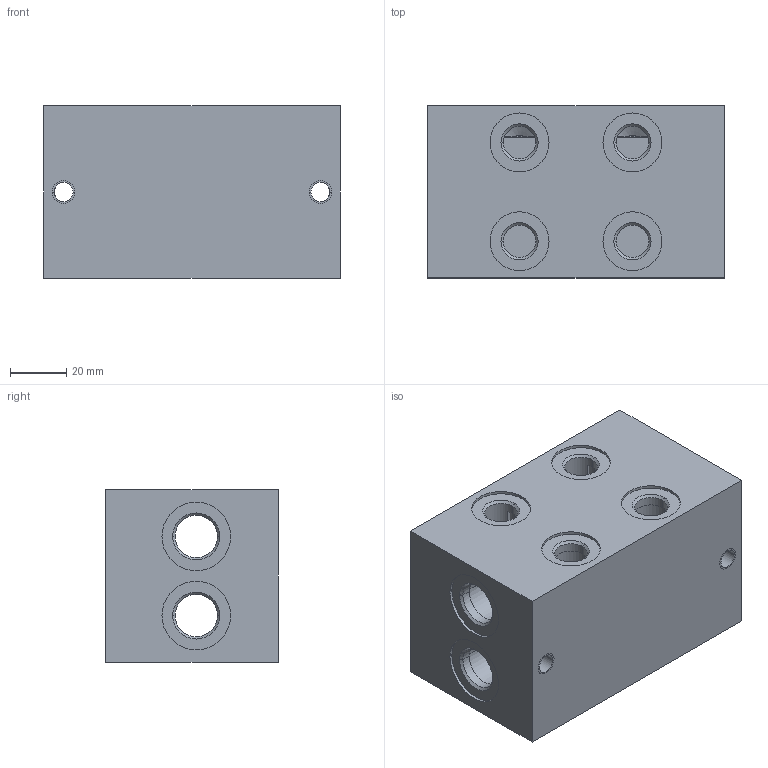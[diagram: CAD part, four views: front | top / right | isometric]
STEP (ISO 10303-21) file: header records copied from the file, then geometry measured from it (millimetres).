
FILE_DESCRIPTION((''),'2;1');
FILE_NAME('760_6820','2015-11-27T',('Ahcz.brigadnik05'),(''),'PRO/ENGINEER BY PARAMETRIC TECHNOLOGY CORPORATION, 2015110','PRO/ENGINEER BY PARAMETRIC TECHNOLOGY CORPORATION, 2015110','');
FILE_SCHEMA(('AUTOMOTIVE_DESIGN { 1 0 10303 214 1 1 1 1 }'));
Length unit declared in the file: millimetre
Products named in the file (1): 760_6820
Bounding box: 105 x 61 x 61 mm (x, y, z)
Volume: 158002.2 mm3; surface area: 65623.5 mm2
Topology: 1 solids, 19 shells, 179 faces, 1049 edges, 986 vertices
Faces by surface type: cylinder 116, plane 42, cone 21
Entity records: 11351 total; most frequent: CARTESIAN_POINT 2149, DIRECTION 1648, ORIENTED_EDGE 906, VECTOR 740, LINE 740, TRIMMED_CURVE 559, CURVE_STYLE 510, PRESENTATION_STYLE_ASSIGNMENT 510
